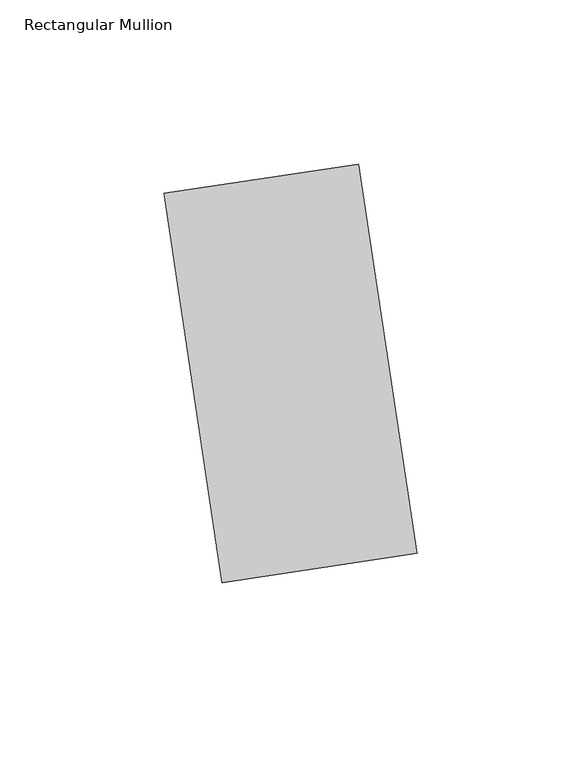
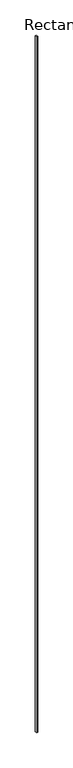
"""IFC4 building model written with IfcOpenShell, lengths in millimetres: member geometry, Rectangular Mullion : TERÇA 6x12 cm."""

import ifcopenshell
import ifcopenshell.guid

model = None  # the IFC model being written
_history = None  # IfcOwnerHistory: only IFC2X3 demands one
_inside = {}  # id of a spatial element -> (the spatial element, [elements in it])
_under = {}  # id of a project, library or spatial element -> (it, [spatial elements below it])
_declared = {}  # id of a project -> (the project, [libraries it declares])
_typed = {}  # id of a type object -> (the type object, [elements of that type])
_made_of = {}  # id of a material, layer set ... -> (it, [elements and type objects made of it])


def new_model(schema):
    """Start an empty IFC model of exactly this schema.

    Asked for "IFC4X3", IfcOpenShell would pick the latest addendum, in which some entities
    have other attributes; the version numbers below select the first issue.
    IFC2X3 requires an IfcOwnerHistory on every rooted entity: one is made here for all.
    """
    global model, _history
    if schema == "IFC4X3":
        model = ifcopenshell.file(schema_version=(4, 3, 0, 0))
    else:
        model = ifcopenshell.file(schema=schema)
    _inside.clear()
    _under.clear()
    _declared.clear()
    _typed.clear()
    _made_of.clear()
    _history = None
    if model.schema == "IFC2X3":
        org = make("IfcOrganization", Name="unknown")
        user = make(
            "IfcPersonAndOrganization",
            ThePerson=make("IfcPerson", FamilyName="unknown"),
            TheOrganization=org,
        )
        app = make(
            "IfcApplication",
            ApplicationDeveloper=org,
            Version="unknown",
            ApplicationFullName="unknown",
            ApplicationIdentifier="unknown",
        )
        _history = make(
            "IfcOwnerHistory",
            OwningUser=user,
            OwningApplication=app,
            ChangeAction="ADDED",
            CreationDate=0,
        )
    return model


def make(cls, **values):
    """One entity of the class cls with the attributes given. An attribute that is None is left unset."""
    return model.create_entity(
        cls, **{name: value for name, value in values.items() if value is not None}
    )


def rooted(cls, **values):
    """An entity with a GlobalId (a new one), such as an element, a storey or a relation."""
    return make(cls, GlobalId=ifcopenshell.guid.new(), OwnerHistory=_history, **values)


def si_unit(unit_type, name, prefix=None):
    """IfcSIUnit, for example si_unit("LENGTHUNIT", "METRE", prefix="MILLI")."""
    return make("IfcSIUnit", UnitType=unit_type, Prefix=prefix, Name=name)


def assignment(units):
    """IfcUnitAssignment: the units of a project."""
    return None if units is None else make("IfcUnitAssignment", Units=units)


def point(xyz):
    """IfcCartesianPoint."""
    return None if xyz is None else make("IfcCartesianPoint", Coordinates=xyz)


def direction(xyz):
    """IfcDirection."""
    return None if xyz is None else make("IfcDirection", DirectionRatios=xyz)


def frame(location, z_axis=None, x_axis=None):
    """IfcAxis2Placement3D, a coordinate frame: its origin and axes. An axis left out is left unset."""
    return make(
        "IfcAxis2Placement3D",
        Location=point(location),
        Axis=direction(z_axis),
        RefDirection=direction(x_axis),
    )


def origin():
    """The frame at (0, 0, 0) with its axes left unset."""
    return frame((0.0, 0.0, 0.0))


def place(relative_to, where):
    """IfcLocalPlacement: puts the frame where relative to a parent placement (None: the world)."""
    return make(
        "IfcLocalPlacement", PlacementRelTo=relative_to, RelativePlacement=where
    )


def context(
    kind, dimensions, precision=None, world=None, true_north=None, identifier=None
):
    """IfcGeometricRepresentationContext, for example the 3D "Model" context."""
    return make(
        "IfcGeometricRepresentationContext",
        ContextIdentifier=identifier,
        ContextType=kind,
        CoordinateSpaceDimension=dimensions,
        Precision=precision,
        WorldCoordinateSystem=world,
        TrueNorth=true_north,
    )


def project(units=None, contexts=None):
    """IfcProject with its units and contexts."""
    return rooted(
        "IfcProject",
        Name="project",
        RepresentationContexts=contexts,
        UnitsInContext=assignment(units),
    )


def spatial(cls, under=None, at=None, **own):
    """A site, building, storey or space (cls), placed at a placement, below another one or the project."""
    s = rooted(cls, ObjectPlacement=at, **own)
    if under is not None:
        _under.setdefault(under.id(), (under, []))[1].append(s)
    return s


def polyline(points):
    """IfcPolyline through the points."""
    return make("IfcPolyline", Points=[point(p) for p in points])


def outline(outer, holes=None, kind="AREA"):
    """IfcArbitraryClosedProfileDef: a profile drawn as a closed curve; with holes, ...WithVoids."""
    if holes is None:
        return make("IfcArbitraryClosedProfileDef", ProfileType=kind, OuterCurve=outer)
    return make(
        "IfcArbitraryProfileDefWithVoids",
        ProfileType=kind,
        OuterCurve=outer,
        InnerCurves=holes,
    )


def extrude(swept, where, along, depth):
    """IfcExtrudedAreaSolid: the profile swept, set in the frame where, extruded along a direction by depth."""
    return make(
        "IfcExtrudedAreaSolid",
        SweptArea=swept,
        Position=where,
        ExtrudedDirection=direction(along),
        Depth=depth,
    )


def shape(context_of_items, identifier, shape_type, items):
    """IfcShapeRepresentation: the items that make up one representation, for example the "Body"."""
    return make(
        "IfcShapeRepresentation",
        ContextOfItems=context_of_items,
        RepresentationIdentifier=identifier,
        RepresentationType=shape_type,
        Items=items,
    )


def source(mapping_origin, context_of_items, identifier, shape_type, items):
    """IfcRepresentationMap: a shape defined once, which mapped items show again and again."""
    return make(
        "IfcRepresentationMap",
        MappingOrigin=mapping_origin,
        MappedRepresentation=shape(context_of_items, identifier, shape_type, items),
    )


def transform(
    local_origin,
    x_axis=None,
    y_axis=None,
    z_axis=None,
    scale=None,
    scale2=None,
    scale3=None,
    uniform=True,
):
    """IfcCartesianTransformationOperator3D, or its non-uniform kind. x_axis, y_axis, z_axis: its Axis1, 2, 3."""
    if uniform:
        return make(
            "IfcCartesianTransformationOperator3D",
            Axis1=direction(x_axis),
            Axis2=direction(y_axis),
            LocalOrigin=point(local_origin),
            Scale=scale,
            Axis3=direction(z_axis),
        )
    return make(
        "IfcCartesianTransformationOperator3DnonUniform",
        Axis1=direction(x_axis),
        Axis2=direction(y_axis),
        LocalOrigin=point(local_origin),
        Scale=scale,
        Axis3=direction(z_axis),
        Scale2=scale2,
        Scale3=scale3,
    )


def mapped(mapping_source, mapping_target):
    """IfcMappedItem: shows the shape of a source again, moved by a transform."""
    return make(
        "IfcMappedItem", MappingSource=mapping_source, MappingTarget=mapping_target
    )


def made_of(thing, what):
    """Note that an element or type object is made of a material, layer set ...; save() writes the relation."""
    if what is not None:
        _made_of.setdefault(what.id(), (what, []))[1].append(thing)
    return thing


def element(
    cls,
    number,
    at=None,
    inside=None,
    cuts=None,
    type_object=None,
    material=None,
    context=None,
    identifier="Body",
    shape_type=None,
    held_by="IfcProductDefinitionShape",
    body=None,
    shapes=None,
    **own,
):
    """One element of the class cls, such as IfcWall. Its Tag is "e" and its number.

    at: its placement. inside: the storey or other place that contains it. cuts: it is an
    opening in that element (IfcRelVoidsElement). A single representation is given by context,
    identifier, shape_type and body (its items); several are given by shapes. held_by: the class
    of the entity that holds the representations. save() writes the other relations.
    """
    e = rooted(cls, Tag="e%d" % number, ObjectPlacement=at, **own)
    if body is not None:
        shapes = [shape(context, identifier, shape_type, body)]
    if shapes is not None:
        e.Representation = make(held_by, Representations=shapes)
    if inside is not None:
        _inside.setdefault(inside.id(), (inside, []))[1].append(e)
    if cuts is not None:
        rooted(
            "IfcRelVoidsElement", RelatingBuildingElement=cuts, RelatedOpeningElement=e
        )
    if type_object is not None:
        _typed.setdefault(type_object.id(), (type_object, []))[1].append(e)
    return made_of(e, material)


def aggregate(whole, parts):
    """IfcRelAggregates: a whole, such as a stair, and the parts it consists of."""
    return rooted("IfcRelAggregates", RelatingObject=whole, RelatedObjects=parts)


def save(model, path):
    """Write the relations noted so far, then the file.

    IfcRelAggregates (storeys below a building ...), IfcRelContainedInSpatialStructure (elements
    in a storey), IfcRelDefinesByType, IfcRelAssociatesMaterial and IfcRelDeclares: one each for
    every whole, place, type object, material and project.
    """
    for whole, parts in _under.values():
        aggregate(whole, parts)
    for where, things in _inside.values():
        rooted(
            "IfcRelContainedInSpatialStructure",
            RelatedElements=things,
            RelatingStructure=where,
        )
    for kind, things in _typed.values():
        rooted("IfcRelDefinesByType", RelatedObjects=things, RelatingType=kind)
    for what, things in _made_of.values():
        rooted("IfcRelAssociatesMaterial", RelatedObjects=things, RelatingMaterial=what)
    for by, libraries in _declared.values():
        rooted("IfcRelDeclares", RelatingContext=by, RelatedDefinitions=libraries)
    model.write(path)


def rectangular_mullion_c7bb4686(model_context):
    return source(origin(), model_context, "Body", "SweptSolid", [
        extrude(outline(polyline([(29.6680906, 4.4502136), (-29.6680906, -4.4502136), (-47.4689449, 114.2221488), (11.8672362, 123.1225759), (29.6680906, 4.4502136)])), frame((0.0, 0.0, -37475.0), z_axis=(0.0, 0.0, 1.0), x_axis=(1.0, 0.0, 0.0)), (0.0, 0.0, 1.0), 37475.0),
    ])


if __name__ == "__main__":
    model = new_model("IFC4")
    model_context = context("Model", 3, world=origin())
    ifc_project = project(units=[si_unit("LENGTHUNIT", "METRE", prefix="MILLI")], contexts=[model_context])
    site = spatial("IfcSite", under=ifc_project)
    building = spatial("IfcBuilding", under=site)
    placement = place(None, origin())
    rectangular_mullion_shape = rectangular_mullion_c7bb4686(model_context)
    element("IfcMember", 1, ObjectType="Rectangular Mullion : TERÇA 6x12 cm", at=placement, inside=building, context=model_context, shape_type="MappedRepresentation", body=[
        mapped(rectangular_mullion_shape, transform((0.0, 0.0, 0.0), x_axis=(1.0, 0.0, 0.0), y_axis=(0.0, 1.0, 0.0), z_axis=(0.0, 0.0, 1.0))),
    ])
    save(model, "model.ifc")
